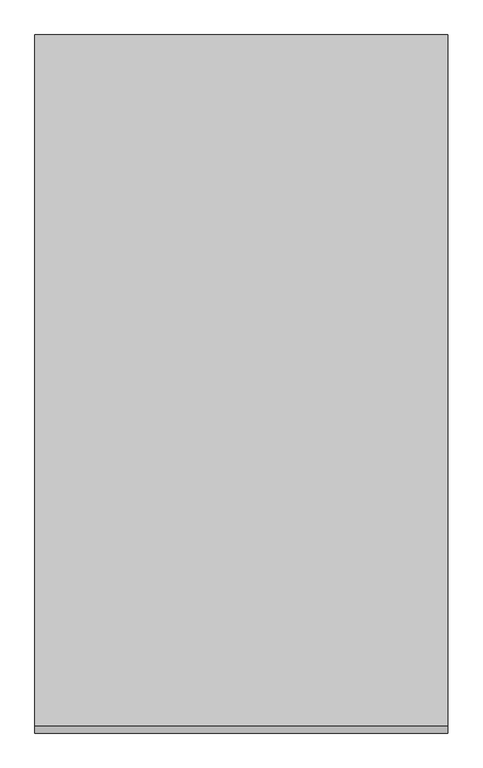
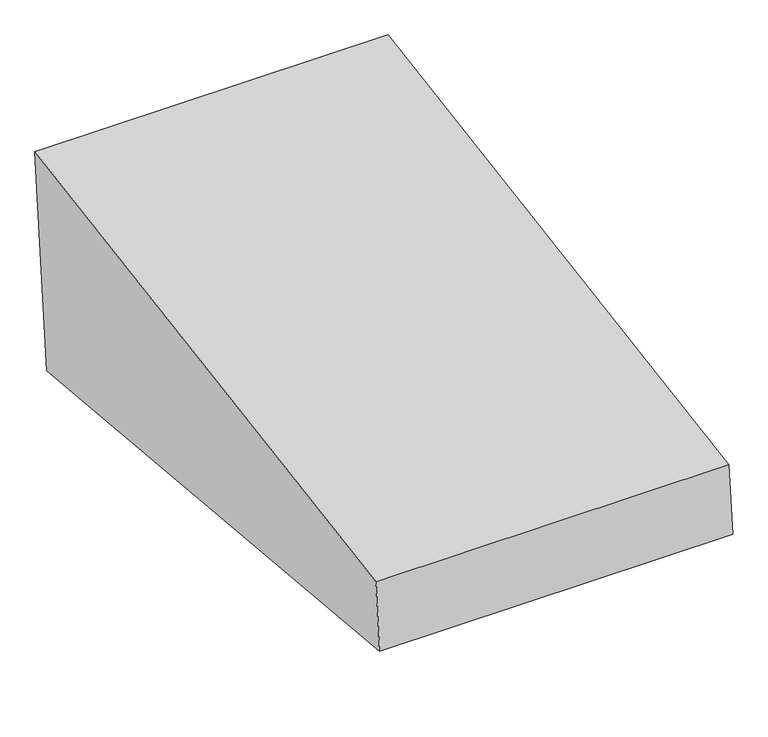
"""IFC4 building model written with IfcOpenShell, lengths in millimetres: proxy geometry, Excavation FamilySP : Excavation FamilySP."""

import ifcopenshell
import ifcopenshell.guid

model = None  # the IFC model being written
_history = None  # IfcOwnerHistory: only IFC2X3 demands one
_inside = {}  # id of a spatial element -> (the spatial element, [elements in it])
_under = {}  # id of a project, library or spatial element -> (it, [spatial elements below it])
_declared = {}  # id of a project -> (the project, [libraries it declares])
_typed = {}  # id of a type object -> (the type object, [elements of that type])
_made_of = {}  # id of a material, layer set ... -> (it, [elements and type objects made of it])


def new_model(schema):
    """Start an empty IFC model of exactly this schema.

    Asked for "IFC4X3", IfcOpenShell would pick the latest addendum, in which some entities
    have other attributes; the version numbers below select the first issue.
    IFC2X3 requires an IfcOwnerHistory on every rooted entity: one is made here for all.
    """
    global model, _history
    if schema == "IFC4X3":
        model = ifcopenshell.file(schema_version=(4, 3, 0, 0))
    else:
        model = ifcopenshell.file(schema=schema)
    _inside.clear()
    _under.clear()
    _declared.clear()
    _typed.clear()
    _made_of.clear()
    _history = None
    if model.schema == "IFC2X3":
        org = make("IfcOrganization", Name="unknown")
        user = make(
            "IfcPersonAndOrganization",
            ThePerson=make("IfcPerson", FamilyName="unknown"),
            TheOrganization=org,
        )
        app = make(
            "IfcApplication",
            ApplicationDeveloper=org,
            Version="unknown",
            ApplicationFullName="unknown",
            ApplicationIdentifier="unknown",
        )
        _history = make(
            "IfcOwnerHistory",
            OwningUser=user,
            OwningApplication=app,
            ChangeAction="ADDED",
            CreationDate=0,
        )
    return model


def make(cls, **values):
    """One entity of the class cls with the attributes given. An attribute that is None is left unset."""
    return model.create_entity(
        cls, **{name: value for name, value in values.items() if value is not None}
    )


def rooted(cls, **values):
    """An entity with a GlobalId (a new one), such as an element, a storey or a relation."""
    return make(cls, GlobalId=ifcopenshell.guid.new(), OwnerHistory=_history, **values)


def si_unit(unit_type, name, prefix=None):
    """IfcSIUnit, for example si_unit("LENGTHUNIT", "METRE", prefix="MILLI")."""
    return make("IfcSIUnit", UnitType=unit_type, Prefix=prefix, Name=name)


def assignment(units):
    """IfcUnitAssignment: the units of a project."""
    return None if units is None else make("IfcUnitAssignment", Units=units)


def point(xyz):
    """IfcCartesianPoint."""
    return None if xyz is None else make("IfcCartesianPoint", Coordinates=xyz)


def direction(xyz):
    """IfcDirection."""
    return None if xyz is None else make("IfcDirection", DirectionRatios=xyz)


def frame(location, z_axis=None, x_axis=None):
    """IfcAxis2Placement3D, a coordinate frame: its origin and axes. An axis left out is left unset."""
    return make(
        "IfcAxis2Placement3D",
        Location=point(location),
        Axis=direction(z_axis),
        RefDirection=direction(x_axis),
    )


def origin():
    """The frame at (0, 0, 0) with its axes left unset."""
    return frame((0.0, 0.0, 0.0))


def place(relative_to, where):
    """IfcLocalPlacement: puts the frame where relative to a parent placement (None: the world)."""
    return make(
        "IfcLocalPlacement", PlacementRelTo=relative_to, RelativePlacement=where
    )


def context(
    kind, dimensions, precision=None, world=None, true_north=None, identifier=None
):
    """IfcGeometricRepresentationContext, for example the 3D "Model" context."""
    return make(
        "IfcGeometricRepresentationContext",
        ContextIdentifier=identifier,
        ContextType=kind,
        CoordinateSpaceDimension=dimensions,
        Precision=precision,
        WorldCoordinateSystem=world,
        TrueNorth=true_north,
    )


def project(units=None, contexts=None):
    """IfcProject with its units and contexts."""
    return rooted(
        "IfcProject",
        Name="project",
        RepresentationContexts=contexts,
        UnitsInContext=assignment(units),
    )


def spatial(cls, under=None, at=None, **own):
    """A site, building, storey or space (cls), placed at a placement, below another one or the project."""
    s = rooted(cls, ObjectPlacement=at, **own)
    if under is not None:
        _under.setdefault(under.id(), (under, []))[1].append(s)
    return s


def polyline(points):
    """IfcPolyline through the points."""
    return make("IfcPolyline", Points=[point(p) for p in points])


def outline(outer, holes=None, kind="AREA"):
    """IfcArbitraryClosedProfileDef: a profile drawn as a closed curve; with holes, ...WithVoids."""
    if holes is None:
        return make("IfcArbitraryClosedProfileDef", ProfileType=kind, OuterCurve=outer)
    return make(
        "IfcArbitraryProfileDefWithVoids",
        ProfileType=kind,
        OuterCurve=outer,
        InnerCurves=holes,
    )


def extrude(swept, where, along, depth):
    """IfcExtrudedAreaSolid: the profile swept, set in the frame where, extruded along a direction by depth."""
    return make(
        "IfcExtrudedAreaSolid",
        SweptArea=swept,
        Position=where,
        ExtrudedDirection=direction(along),
        Depth=depth,
    )


def shape(context_of_items, identifier, shape_type, items):
    """IfcShapeRepresentation: the items that make up one representation, for example the "Body"."""
    return make(
        "IfcShapeRepresentation",
        ContextOfItems=context_of_items,
        RepresentationIdentifier=identifier,
        RepresentationType=shape_type,
        Items=items,
    )


def source(mapping_origin, context_of_items, identifier, shape_type, items):
    """IfcRepresentationMap: a shape defined once, which mapped items show again and again."""
    return make(
        "IfcRepresentationMap",
        MappingOrigin=mapping_origin,
        MappedRepresentation=shape(context_of_items, identifier, shape_type, items),
    )


def transform(
    local_origin,
    x_axis=None,
    y_axis=None,
    z_axis=None,
    scale=None,
    scale2=None,
    scale3=None,
    uniform=True,
):
    """IfcCartesianTransformationOperator3D, or its non-uniform kind. x_axis, y_axis, z_axis: its Axis1, 2, 3."""
    if uniform:
        return make(
            "IfcCartesianTransformationOperator3D",
            Axis1=direction(x_axis),
            Axis2=direction(y_axis),
            LocalOrigin=point(local_origin),
            Scale=scale,
            Axis3=direction(z_axis),
        )
    return make(
        "IfcCartesianTransformationOperator3DnonUniform",
        Axis1=direction(x_axis),
        Axis2=direction(y_axis),
        LocalOrigin=point(local_origin),
        Scale=scale,
        Axis3=direction(z_axis),
        Scale2=scale2,
        Scale3=scale3,
    )


def mapped(mapping_source, mapping_target):
    """IfcMappedItem: shows the shape of a source again, moved by a transform."""
    return make(
        "IfcMappedItem", MappingSource=mapping_source, MappingTarget=mapping_target
    )


def made_of(thing, what):
    """Note that an element or type object is made of a material, layer set ...; save() writes the relation."""
    if what is not None:
        _made_of.setdefault(what.id(), (what, []))[1].append(thing)
    return thing


def element(
    cls,
    number,
    at=None,
    inside=None,
    cuts=None,
    type_object=None,
    material=None,
    context=None,
    identifier="Body",
    shape_type=None,
    held_by="IfcProductDefinitionShape",
    body=None,
    shapes=None,
    **own,
):
    """One element of the class cls, such as IfcWall. Its Tag is "e" and its number.

    at: its placement. inside: the storey or other place that contains it. cuts: it is an
    opening in that element (IfcRelVoidsElement). A single representation is given by context,
    identifier, shape_type and body (its items); several are given by shapes. held_by: the class
    of the entity that holds the representations. save() writes the other relations.
    """
    e = rooted(cls, Tag="e%d" % number, ObjectPlacement=at, **own)
    if body is not None:
        shapes = [shape(context, identifier, shape_type, body)]
    if shapes is not None:
        e.Representation = make(held_by, Representations=shapes)
    if inside is not None:
        _inside.setdefault(inside.id(), (inside, []))[1].append(e)
    if cuts is not None:
        rooted(
            "IfcRelVoidsElement", RelatingBuildingElement=cuts, RelatedOpeningElement=e
        )
    if type_object is not None:
        _typed.setdefault(type_object.id(), (type_object, []))[1].append(e)
    return made_of(e, material)


def aggregate(whole, parts):
    """IfcRelAggregates: a whole, such as a stair, and the parts it consists of."""
    return rooted("IfcRelAggregates", RelatingObject=whole, RelatedObjects=parts)


def save(model, path):
    """Write the relations noted so far, then the file.

    IfcRelAggregates (storeys below a building ...), IfcRelContainedInSpatialStructure (elements
    in a storey), IfcRelDefinesByType, IfcRelAssociatesMaterial and IfcRelDeclares: one each for
    every whole, place, type object, material and project.
    """
    for whole, parts in _under.values():
        aggregate(whole, parts)
    for where, things in _inside.values():
        rooted(
            "IfcRelContainedInSpatialStructure",
            RelatedElements=things,
            RelatingStructure=where,
        )
    for kind, things in _typed.values():
        rooted("IfcRelDefinesByType", RelatedObjects=things, RelatingType=kind)
    for what, things in _made_of.values():
        rooted("IfcRelAssociatesMaterial", RelatedObjects=things, RelatingMaterial=what)
    for by, libraries in _declared.values():
        rooted("IfcRelDeclares", RelatingContext=by, RelatedDefinitions=libraries)
    model.write(path)


def generic_models_5df4b443(model_context):
    return source(origin(), model_context, "Body", "SweptSolid", [
        extrude(outline(polyline([(174.9242437, 1890.9973148), (0.0, 0.0), (-4978.7439903, 460.5522282), (-4923.1197344, 1061.8714981), (174.9242437, 1890.9973148)])), frame((-1524.0, 0.0, 0.0), z_axis=(1.0, 0.0, 0.0), x_axis=(0.0, 1.0, 0.0)), (0.0, 0.0, 1.0), 3048.0),
    ])


if __name__ == "__main__":
    model = new_model("IFC4")
    model_context = context("Model", 3, world=origin())
    ifc_project = project(units=[si_unit("LENGTHUNIT", "METRE", prefix="MILLI")], contexts=[model_context])
    site = spatial("IfcSite", under=ifc_project)
    building = spatial("IfcBuilding", under=site)
    placement = place(None, origin())
    generic_models_shape = generic_models_5df4b443(model_context)
    element("IfcBuildingElementProxy", 1, Name="Excavation FamilySP : Excavation FamilySP", ObjectType="Excavation FamilySP : Excavation FamilySP", at=placement, inside=building, context=model_context, shape_type="MappedRepresentation", body=[
        mapped(generic_models_shape, transform((0.0, 0.0, 0.0), x_axis=(1.0, 0.0, 0.0), y_axis=(0.0, 1.0, 0.0), z_axis=(0.0, 0.0, 1.0))),
    ])
    save(model, "model.ifc")
